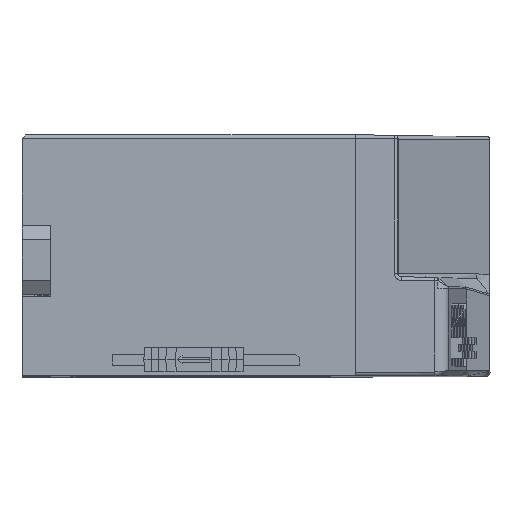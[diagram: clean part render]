
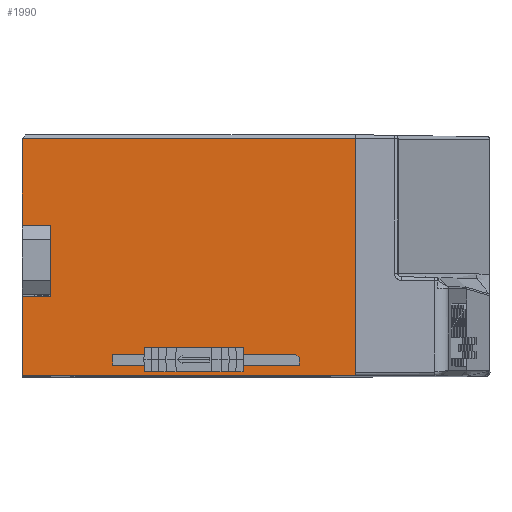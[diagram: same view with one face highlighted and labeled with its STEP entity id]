
A CAD part, top view. The second image highlights one B-rep face of the part: STEP entity #1990.
In plain terms, the highlighted planar face has unit normal (0, 0, 1).
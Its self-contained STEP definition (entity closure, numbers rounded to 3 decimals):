
#1029=FACE_BOUND('',#8826,.T.);
#1030=FACE_BOUND('',#8827,.T.);
#1990=ADVANCED_FACE('',(#1029,#1030),#4583,.T.);
#4583=PLANE('',#49471);
#8826=EDGE_LOOP('',(#22164,#22165,#22166,#22167,#22168,#22169,#22170,#22171,
#22172));
#8827=EDGE_LOOP('',(#22173,#22174,#22175,#22176,#22177,#22178,#22179));
#11701=LINE('',#66206,#16871);
#11703=LINE('',#66210,#16873);
#11704=LINE('',#66212,#16874);
#11705=LINE('',#66214,#16875);
#11706=LINE('',#66216,#16876);
#11707=LINE('',#66218,#16877);
#11708=LINE('',#66220,#16878);
#11709=LINE('',#66222,#16879);
#11710=LINE('',#66224,#16880);
#11711=LINE('',#66225,#16881);
#11712=LINE('',#66228,#16882);
#11713=LINE('',#66230,#16883);
#11714=LINE('',#66232,#16884);
#11715=LINE('',#66234,#16885);
#11716=LINE('',#66236,#16886);
#11717=LINE('',#66238,#16887);
#16871=VECTOR('',#53482,1.);
#16873=VECTOR('',#53486,1.);
#16874=VECTOR('',#53487,1.);
#16875=VECTOR('',#53488,1.);
#16876=VECTOR('',#53489,1.);
#16877=VECTOR('',#53490,1.);
#16878=VECTOR('',#53491,1.);
#16879=VECTOR('',#53492,1.);
#16880=VECTOR('',#53493,1.);
#16881=VECTOR('',#53494,1.);
#16882=VECTOR('',#53495,1.);
#16883=VECTOR('',#53496,1.);
#16884=VECTOR('',#53497,1.);
#16885=VECTOR('',#53498,1.);
#16886=VECTOR('',#53499,1.);
#16887=VECTOR('',#53500,1.);
#22164=ORIENTED_EDGE('',*,*,#41081,.T.);
#22165=ORIENTED_EDGE('',*,*,#41083,.T.);
#22166=ORIENTED_EDGE('',*,*,#41084,.F.);
#22167=ORIENTED_EDGE('',*,*,#41085,.T.);
#22168=ORIENTED_EDGE('',*,*,#41086,.T.);
#22169=ORIENTED_EDGE('',*,*,#41087,.F.);
#22170=ORIENTED_EDGE('',*,*,#41088,.T.);
#22171=ORIENTED_EDGE('',*,*,#41089,.T.);
#22172=ORIENTED_EDGE('',*,*,#41090,.F.);
#22173=ORIENTED_EDGE('',*,*,#41091,.T.);
#22174=ORIENTED_EDGE('',*,*,#41092,.F.);
#22175=ORIENTED_EDGE('',*,*,#41093,.F.);
#22176=ORIENTED_EDGE('',*,*,#41094,.T.);
#22177=ORIENTED_EDGE('',*,*,#41095,.T.);
#22178=ORIENTED_EDGE('',*,*,#41096,.T.);
#22179=ORIENTED_EDGE('',*,*,#41097,.T.);
#36321=VERTEX_POINT('',#66205);
#36322=VERTEX_POINT('',#66207);
#36323=VERTEX_POINT('',#66211);
#36324=VERTEX_POINT('',#66213);
#36325=VERTEX_POINT('',#66215);
#36326=VERTEX_POINT('',#66217);
#36327=VERTEX_POINT('',#66219);
#36328=VERTEX_POINT('',#66221);
#36329=VERTEX_POINT('',#66223);
#36330=VERTEX_POINT('',#66226);
#36331=VERTEX_POINT('',#66227);
#36332=VERTEX_POINT('',#66229);
#36333=VERTEX_POINT('',#66231);
#36334=VERTEX_POINT('',#66233);
#36335=VERTEX_POINT('',#66235);
#36336=VERTEX_POINT('',#66237);
#41081=EDGE_CURVE('',#36322,#36321,#11701,.T.);
#41083=EDGE_CURVE('',#36321,#36323,#11703,.T.);
#41084=EDGE_CURVE('',#36324,#36323,#11704,.T.);
#41085=EDGE_CURVE('',#36324,#36325,#11705,.T.);
#41086=EDGE_CURVE('',#36325,#36326,#11706,.T.);
#41087=EDGE_CURVE('',#36327,#36326,#11707,.T.);
#41088=EDGE_CURVE('',#36327,#36328,#11708,.T.);
#41089=EDGE_CURVE('',#36328,#36329,#11709,.T.);
#41090=EDGE_CURVE('',#36322,#36329,#11710,.T.);
#41091=EDGE_CURVE('',#36330,#36331,#11711,.T.);
#41092=EDGE_CURVE('',#36332,#36331,#11712,.T.);
#41093=EDGE_CURVE('',#36333,#36332,#11713,.T.);
#41094=EDGE_CURVE('',#36333,#36334,#11714,.T.);
#41095=EDGE_CURVE('',#36334,#36335,#11715,.T.);
#41096=EDGE_CURVE('',#36335,#36336,#11716,.T.);
#41097=EDGE_CURVE('',#36336,#36330,#11717,.T.);
#49471=AXIS2_PLACEMENT_3D('',#66239,#53501,#53502);
#53482=DIRECTION('',(0.,1.,0.));
#53486=DIRECTION('',(-1.,0.,0.));
#53487=DIRECTION('',(0.017,1.,0.));
#53488=DIRECTION('',(0.,-1.,0.));
#53489=DIRECTION('',(1.,0.,0.));
#53490=DIRECTION('',(0.,1.,0.));
#53491=DIRECTION('',(-1.,0.,0.));
#53492=DIRECTION('',(0.,-1.,0.));
#53493=DIRECTION('',(-1.,0.,0.));
#53494=DIRECTION('',(-1.,0.,0.));
#53495=DIRECTION('',(0.017,-1.,0.));
#53496=DIRECTION('',(-0.017,-1.,0.));
#53497=DIRECTION('',(1.,0.,0.));
#53498=DIRECTION('',(0.707,-0.707,0.));
#53499=DIRECTION('',(0.017,-1.,0.));
#53500=DIRECTION('',(-0.017,-1.,0.));
#53501=DIRECTION('',(0.,0.,1.));
#53502=DIRECTION('',(-1.,0.,0.));
#66205=CARTESIAN_POINT('',(-247.544,-54.739,278.694));
#66206=CARTESIAN_POINT('',(-247.544,-88.239,278.694));
#66207=CARTESIAN_POINT('',(-247.544,-88.239,278.694));
#66210=CARTESIAN_POINT('',(-294.544,-54.739,278.694));
#66211=CARTESIAN_POINT('',(-294.526,-54.739,278.694));
#66212=CARTESIAN_POINT('',(-295.161,-91.134,278.694));
#66213=CARTESIAN_POINT('',(-294.544,-55.739,278.694));
#66214=CARTESIAN_POINT('',(-294.544,-55.739,278.694));
#66215=CARTESIAN_POINT('',(-294.544,-66.989,278.694));
#66216=CARTESIAN_POINT('',(-294.544,-66.989,278.694));
#66217=CARTESIAN_POINT('',(-290.544,-66.989,278.694));
#66218=CARTESIAN_POINT('',(-290.544,-91.625,278.694));
#66219=CARTESIAN_POINT('',(-290.544,-76.989,278.694));
#66220=CARTESIAN_POINT('',(-290.544,-76.989,278.694));
#66221=CARTESIAN_POINT('',(-294.544,-76.989,278.694));
#66222=CARTESIAN_POINT('',(-294.544,-76.989,278.694));
#66223=CARTESIAN_POINT('',(-294.544,-88.239,278.694));
#66224=CARTESIAN_POINT('',(-247.544,-88.239,278.694));
#66225=CARTESIAN_POINT('',(-247.544,-86.739,278.694));
#66226=CARTESIAN_POINT('',(-255.458,-86.739,278.694));
#66227=CARTESIAN_POINT('',(-281.73,-86.739,278.694));
#66228=CARTESIAN_POINT('',(-281.744,-85.939,278.694));
#66229=CARTESIAN_POINT('',(-281.744,-85.939,278.694));
#66230=CARTESIAN_POINT('',(-281.744,-85.939,278.694));
#66231=CARTESIAN_POINT('',(-281.73,-85.139,278.694));
#66232=CARTESIAN_POINT('',(-247.544,-85.139,278.694));
#66233=CARTESIAN_POINT('',(-255.924,-85.139,278.694));
#66234=CARTESIAN_POINT('',(-266.434,-74.63,278.694));
#66235=CARTESIAN_POINT('',(-255.449,-85.614,278.694));
#66236=CARTESIAN_POINT('',(-255.968,-55.886,278.694));
#66237=CARTESIAN_POINT('',(-255.444,-85.939,278.694));
#66238=CARTESIAN_POINT('',(-254.914,-55.61,278.694));
#66239=CARTESIAN_POINT('',(-267.044,-91.625,278.694));
